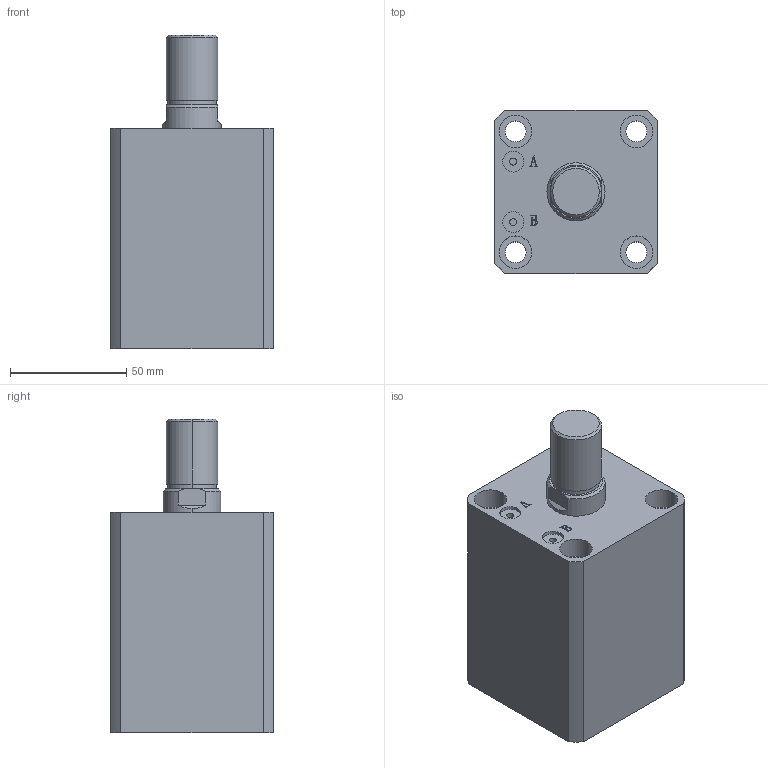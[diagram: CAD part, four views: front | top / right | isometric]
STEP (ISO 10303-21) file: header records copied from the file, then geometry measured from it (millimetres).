
FILE_DESCRIPTION (( 'STEP AP203' ), '1' );
FILE_NAME ('HTB-SDMA40-40W.STEP', '2019-10-07T11:53:13', ( '微软用户' ), ( '微软中国' ), 'SwSTEP 2.0', 'SolidWorks 2012', '' );
FILE_SCHEMA (( 'CONFIG_CONTROL_DESIGN' ));
Length unit declared in the file: millimetre
Products named in the file (3): HTB-SDMA40-40W; HTB-SDMA40-40W活塞杆; HTB-SDMA40-40掛极
Assembly tree (2 placements, depth 2):
  HTB-SDMA40-40W
    HTB-SDMA40-40掛极
    HTB-SDMA40-40W活塞杆
Bounding box: 70 x 70 x 135 mm (x, y, z)
Volume: 416232.6 mm3; surface area: 70912.2 mm2
Topology: 2 solids, 2 shells, 141 faces, 337 edges, 222 vertices
Faces by surface type: plane 67, cylinder 48, bspline 16, torus 6, cone 4
Entity records: 5180 total; most frequent: CARTESIAN_POINT 1597, ORIENTED_EDGE 674, DIRECTION 669, EDGE_CURVE 337, AXIS2_PLACEMENT_3D 242, VERTEX_POINT 222, LINE 185, VECTOR 185
